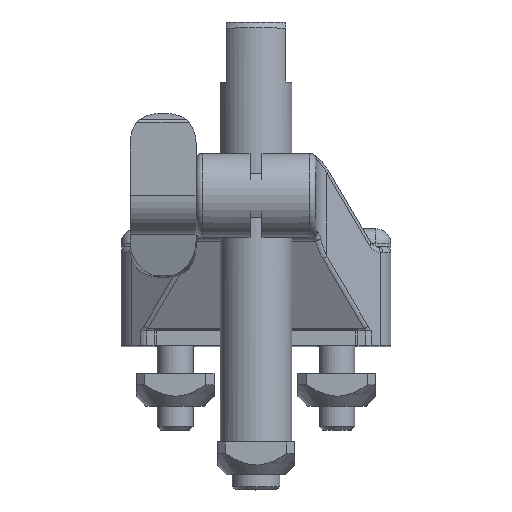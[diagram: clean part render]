
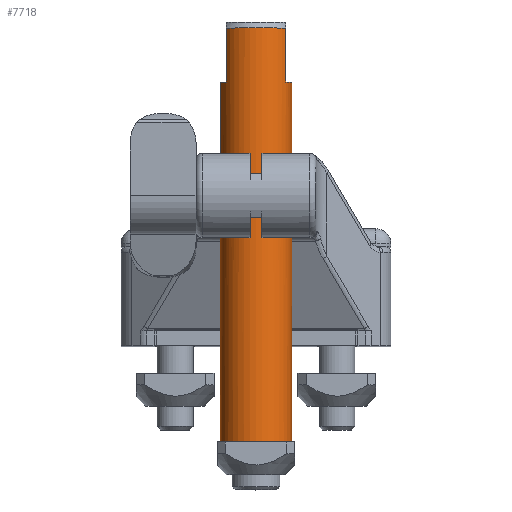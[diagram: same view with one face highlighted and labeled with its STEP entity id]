
A CAD part, top view. The second image highlights one B-rep face of the part: STEP entity #7718.
In plain terms, the highlighted cylindrical face has radius 6 mm (diameter 12 mm), a full revolution.
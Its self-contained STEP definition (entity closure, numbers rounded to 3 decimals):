
#1137=FACE_OUTER_BOUND('',#1636,.T.);
#1636=EDGE_LOOP('',(#7114,#7115,#7116,#7117,#7118,#7119,#7120,#7121,#7122,
#7123,#7124,#7125));
#2174=LINE('',#14791,#2723);
#2179=LINE('',#14805,#2728);
#2180=LINE('',#14818,#2729);
#2185=LINE('',#14832,#2734);
#2188=LINE('',#14859,#2737);
#2723=VECTOR('',#10965,10.);
#2728=VECTOR('',#10972,10.);
#2729=VECTOR('',#10985,10.);
#2734=VECTOR('',#10992,10.);
#2737=VECTOR('',#11033,6.);
#3079=CIRCLE('',#8802,6.);
#3082=CIRCLE('',#8809,6.);
#3083=CIRCLE('',#8810,6.);
#3084=CIRCLE('',#8812,6.);
#3087=CIRCLE('',#8816,6.);
#3091=CIRCLE('',#8824,6.);
#3784=VERTEX_POINT('',#14785);
#3786=VERTEX_POINT('',#14790);
#3789=VERTEX_POINT('',#14797);
#3791=VERTEX_POINT('',#14803);
#3792=VERTEX_POINT('',#14812);
#3794=VERTEX_POINT('',#14817);
#3797=VERTEX_POINT('',#14824);
#3799=VERTEX_POINT('',#14830);
#3800=VERTEX_POINT('',#14837);
#3804=VERTEX_POINT('',#14858);
#4881=EDGE_CURVE('',#3786,#3784,#2174,.T.);
#4887=EDGE_CURVE('',#3789,#3791,#2179,.T.);
#4890=EDGE_CURVE('',#3791,#3786,#3079,.T.);
#4892=EDGE_CURVE('',#3794,#3792,#2180,.T.);
#4898=EDGE_CURVE('',#3797,#3799,#2185,.T.);
#4901=EDGE_CURVE('',#3799,#3800,#3082,.T.);
#4902=EDGE_CURVE('',#3800,#3794,#3083,.T.);
#4903=EDGE_CURVE('',#3789,#3792,#3084,.T.);
#4906=EDGE_CURVE('',#3797,#3784,#3087,.T.);
#4912=EDGE_CURVE('',#3800,#3804,#2188,.T.);
#4913=EDGE_CURVE('',#3804,#3804,#3091,.T.);
#7114=ORIENTED_EDGE('',*,*,#4881,.T.);
#7115=ORIENTED_EDGE('',*,*,#4906,.F.);
#7116=ORIENTED_EDGE('',*,*,#4898,.T.);
#7117=ORIENTED_EDGE('',*,*,#4901,.T.);
#7118=ORIENTED_EDGE('',*,*,#4912,.T.);
#7119=ORIENTED_EDGE('',*,*,#4913,.F.);
#7120=ORIENTED_EDGE('',*,*,#4912,.F.);
#7121=ORIENTED_EDGE('',*,*,#4902,.T.);
#7122=ORIENTED_EDGE('',*,*,#4892,.T.);
#7123=ORIENTED_EDGE('',*,*,#4903,.F.);
#7124=ORIENTED_EDGE('',*,*,#4887,.T.);
#7125=ORIENTED_EDGE('',*,*,#4890,.T.);
#7275=CYLINDRICAL_SURFACE('',#8823,6.);
#7718=ADVANCED_FACE('',(#1137),#7275,.T.);
#8802=AXIS2_PLACEMENT_3D('',#14810,#10981,#10982);
#8809=AXIS2_PLACEMENT_3D('',#14838,#11001,#11002);
#8810=AXIS2_PLACEMENT_3D('',#14839,#11003,#11004);
#8812=AXIS2_PLACEMENT_3D('',#14841,#11007,#11008);
#8816=AXIS2_PLACEMENT_3D('',#14845,#11015,#11016);
#8823=AXIS2_PLACEMENT_3D('',#14857,#11031,#11032);
#8824=AXIS2_PLACEMENT_3D('',#14860,#11034,#11035);
#10965=DIRECTION('',(0.,0.,1.));
#10972=DIRECTION('',(0.,0.,-1.));
#10981=DIRECTION('center_axis',(0.,0.,-1.));
#10982=DIRECTION('ref_axis',(-1.,0.,0.));
#10985=DIRECTION('',(0.,0.,1.));
#10992=DIRECTION('',(0.,0.,-1.));
#11001=DIRECTION('center_axis',(0.,0.,-1.));
#11002=DIRECTION('ref_axis',(-1.,0.,0.));
#11003=DIRECTION('center_axis',(0.,0.,-1.));
#11004=DIRECTION('ref_axis',(-1.,0.,0.));
#11007=DIRECTION('center_axis',(0.,0.,1.));
#11008=DIRECTION('ref_axis',(-1.,0.,0.));
#11015=DIRECTION('center_axis',(0.,0.,1.));
#11016=DIRECTION('ref_axis',(-1.,0.,0.));
#11031=DIRECTION('center_axis',(0.,0.,1.));
#11032=DIRECTION('ref_axis',(-1.,0.,0.));
#11033=DIRECTION('',(0.,0.,-1.));
#11034=DIRECTION('center_axis',(0.,0.,-1.));
#11035=DIRECTION('ref_axis',(-1.,0.,0.));
#14785=CARTESIAN_POINT('',(-4.95,3.391,69.));
#14790=CARTESIAN_POINT('',(-4.95,3.391,60.));
#14791=CARTESIAN_POINT('',(-4.95,3.391,0.));
#14797=CARTESIAN_POINT('',(-4.95,-3.391,69.));
#14803=CARTESIAN_POINT('',(-4.95,-3.391,60.));
#14805=CARTESIAN_POINT('',(-4.95,-3.391,0.));
#14810=CARTESIAN_POINT('Origin',(0.,0.,60.));
#14812=CARTESIAN_POINT('',(4.95,-3.391,69.));
#14817=CARTESIAN_POINT('',(4.95,-3.391,60.));
#14818=CARTESIAN_POINT('',(4.95,-3.391,0.));
#14824=CARTESIAN_POINT('',(4.95,3.391,69.));
#14830=CARTESIAN_POINT('',(4.95,3.391,60.));
#14832=CARTESIAN_POINT('',(4.95,3.391,0.));
#14837=CARTESIAN_POINT('',(6.,0.,60.));
#14838=CARTESIAN_POINT('Origin',(0.,0.,60.));
#14839=CARTESIAN_POINT('Origin',(0.,0.,60.));
#14841=CARTESIAN_POINT('Origin',(0.,0.,69.));
#14845=CARTESIAN_POINT('Origin',(0.,0.,69.));
#14857=CARTESIAN_POINT('Origin',(0.,0.,0.));
#14858=CARTESIAN_POINT('',(6.,0.,0.));
#14859=CARTESIAN_POINT('',(6.,0.,0.));
#14860=CARTESIAN_POINT('Origin',(0.,0.,0.));
